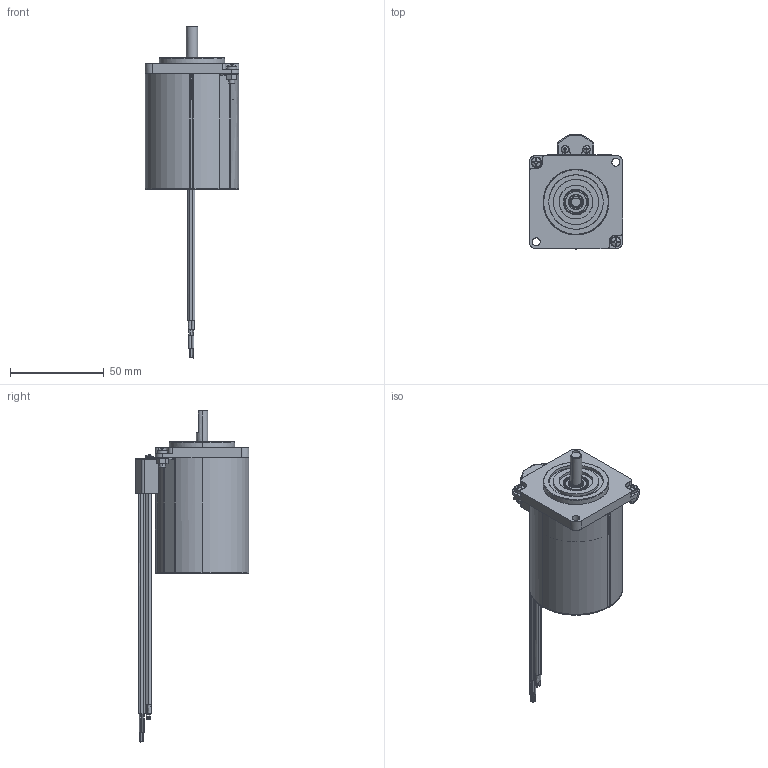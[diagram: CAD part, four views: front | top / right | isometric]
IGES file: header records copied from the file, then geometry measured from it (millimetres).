
Start section: SolidWorks IGES file using analytic representation for surfaces
Bounding box: 50 x 60.77 x 176.99 mm (x, y, z)
Surface area: 39258.8 mm2 (no closed solid volume)
Topology: 0 solids, 0 shells, 1445 faces, 13328 edges, 13307 vertices
Faces by surface type: revolution 985, bspline 460
